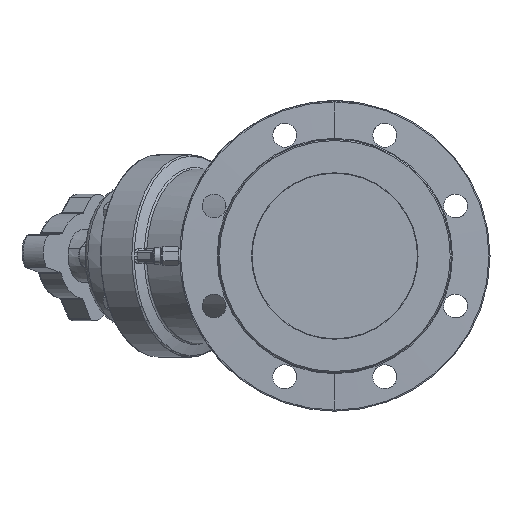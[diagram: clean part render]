
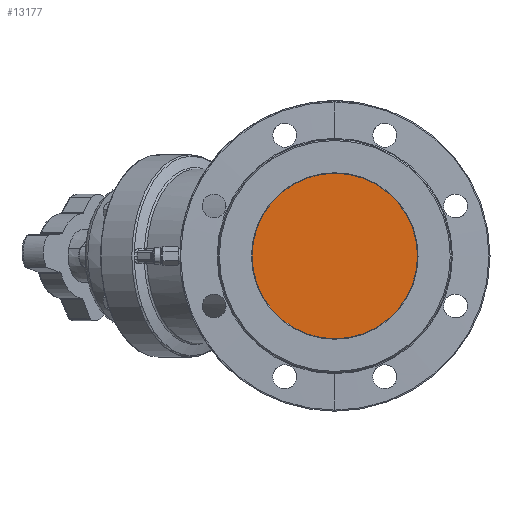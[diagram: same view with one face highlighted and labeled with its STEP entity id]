
A CAD part, left-side view. The second image highlights one B-rep face of the part: STEP entity #13177.
In plain terms, the highlighted planar face has unit normal (-1, 0, 0).
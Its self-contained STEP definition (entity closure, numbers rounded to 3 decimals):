
#6459 = CARTESIAN_POINT ( 'NONE',  ( -109.149, 0., 0. ) ) ;
#6509 = CARTESIAN_POINT ( 'NONE',  ( -109.149, 0., 75.952 ) ) ;
#9962 = ORIENTED_EDGE ( 'NONE', *, *, #15163, .F. ) ;
#10815 = DIRECTION ( 'NONE',  ( -1., 0., 0. ) ) ;
#10994 = CARTESIAN_POINT ( 'NONE',  ( -109.149, 0., -75.952 ) ) ;
#12111 = AXIS2_PLACEMENT_3D ( 'NONE', #6459, #12672, #77544 ) ;
#12672 = DIRECTION ( 'NONE',  ( 1., 0., 0. ) ) ;
#13177 = ADVANCED_FACE ( 'NONE', ( #54264 ), #56216, .T. ) ;
#13456 = CARTESIAN_POINT ( 'NONE',  ( -109.149, 0., 0. ) ) ;
#13747 = DIRECTION ( 'NONE',  ( 1., 0., 0. ) ) ;
#15163 = EDGE_CURVE ( 'NONE', #46094, #37728, #79496, .T. ) ;
#15702 = CIRCLE ( 'NONE', #63078, 75.952 ) ;
#24430 = DIRECTION ( 'NONE',  ( 0., 0., 1. ) ) ;
#29024 = EDGE_LOOP ( 'NONE', ( #35195, #9962 ) ) ;
#35195 = ORIENTED_EDGE ( 'NONE', *, *, #76299, .F. ) ;
#37114 = AXIS2_PLACEMENT_3D ( 'NONE', #62670, #10815, #24430 ) ;
#37728 = VERTEX_POINT ( 'NONE', #6509 ) ;
#39580 = DIRECTION ( 'NONE',  ( 0., 0., 1. ) ) ;
#46094 = VERTEX_POINT ( 'NONE', #10994 ) ;
#54264 = FACE_OUTER_BOUND ( 'NONE', #29024, .T. ) ;
#56216 = PLANE ( 'NONE',  #37114 ) ;
#62670 = CARTESIAN_POINT ( 'NONE',  ( -109.149, 0., 0. ) ) ;
#63078 = AXIS2_PLACEMENT_3D ( 'NONE', #13456, #13747, #39580 ) ;
#76299 = EDGE_CURVE ( 'NONE', #37728, #46094, #15702, .T. ) ;
#77544 = DIRECTION ( 'NONE',  ( 0., 0., 1. ) ) ;
#79496 = CIRCLE ( 'NONE', #12111, 75.952 ) ;
